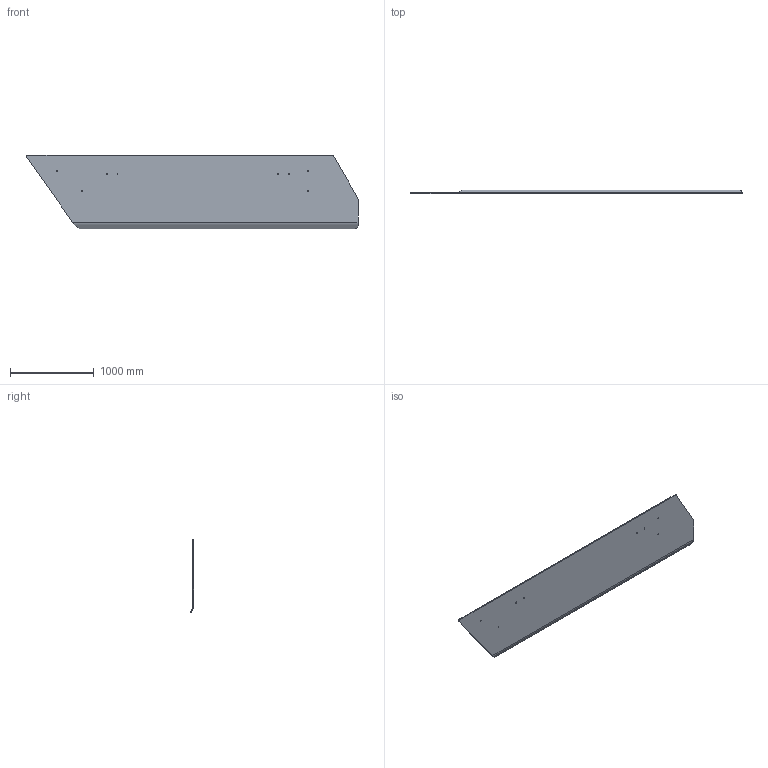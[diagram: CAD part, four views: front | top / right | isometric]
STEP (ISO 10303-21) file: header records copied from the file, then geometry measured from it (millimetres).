
FILE_DESCRIPTION(/* description */ (''),/* implementation_level */ '2;1');
FILE_NAME(/* name */ '6356944ugm000~01.stp',/* time_stamp */ '2021-01-12T17:38:30+01:00',/* author */ (''),/* organization */ (''),/* preprocessor_version */ 'ST-DEVELOPER v16',/* originating_system */ 'SIEMENS PLM Software NX 11.0',/* authorisation */ '');
FILE_SCHEMA (('AUTOMOTIVE_DESIGN { 1 0 10303 214 0 1 1 1 }'));
Length unit declared in the file: millimetre
Products named in the file (1): 6356944ugm000~01
Bounding box: 3970.67 x 47.14 x 882.87 mm (x, y, z)
Volume: 38149072.5 mm3; surface area: 6470827.1 mm2
Topology: 1 solids, 1 shells, 94 faces, 272 edges, 180 vertices
Faces by surface type: cylinder 47, plane 46, bspline 1
Entity records: 3196 total; most frequent: CARTESIAN_POINT 578, DIRECTION 550, ORIENTED_EDGE 544, EDGE_CURVE 272, AXIS2_PLACEMENT_3D 186, VERTEX_POINT 180, LINE 178, VECTOR 178
